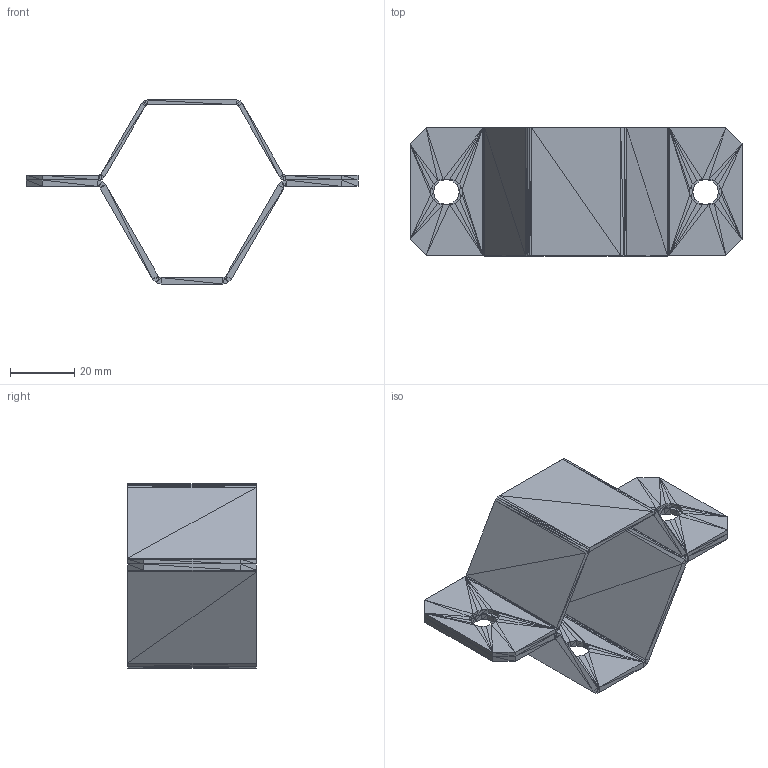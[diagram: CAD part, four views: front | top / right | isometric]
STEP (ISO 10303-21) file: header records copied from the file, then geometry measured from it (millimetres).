
FILE_DESCRIPTION((''),'2;1');
FILE_NAME('003589', '2025-07-21T08:47:31', (''), (''), 'ImageToStl.com STEP Converter','', '');
FILE_SCHEMA(('AUTOMOTIVE_DESIGN_CC2'));
Length unit declared in the file: metre
Products named in the file (1): product0
Bounding box: 103.74 x 40 x 57.5 mm (x, y, z)
Surface area: 22118.7 mm2 (no closed solid volume)
Topology: 0 solids, 560 shells, 560 faces, 1680 edges, 268 vertices
Faces by surface type: plane 560
Entity records: 12884 total; most frequent: DIRECTION 2802, ORIENTED_EDGE 1680, EDGE_CURVE 1680, LINE 1680, VECTOR 1680, AXIS2_PLACEMENT_3D 561, FACE_SURFACE 560, PLANE 560
